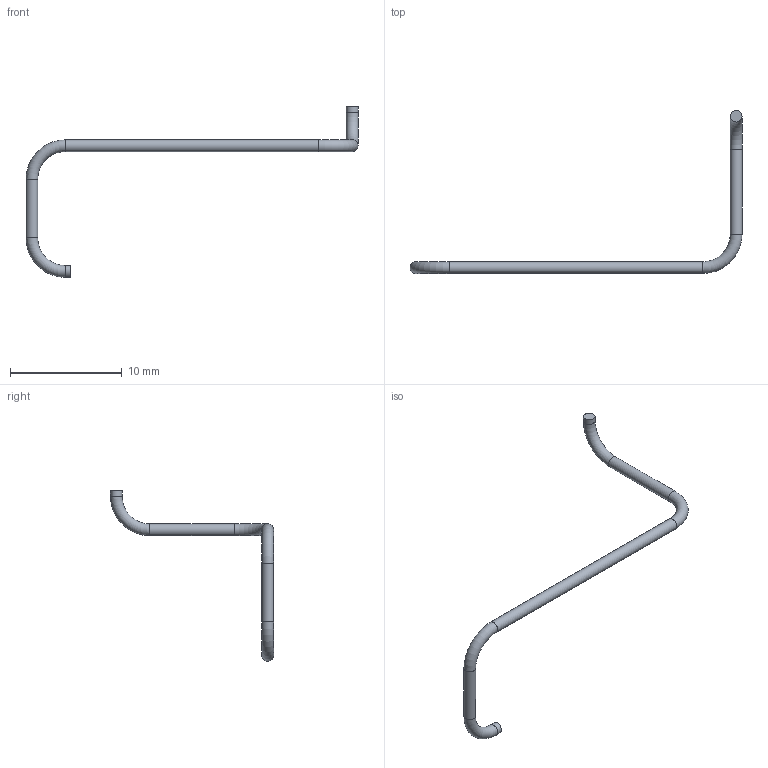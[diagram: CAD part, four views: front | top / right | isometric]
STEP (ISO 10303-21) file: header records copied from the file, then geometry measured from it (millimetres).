
FILE_DESCRIPTION(('Open CASCADE Model'),'2;1');
FILE_NAME('R36_J3_MIC_CK_PIGTAIL_4_OD1p05_R3','2026-09-15T14:09:12',( 'Author'),('Open CASCADE'),'Open CASCADE STEP processor 7.9', 'build123d','Unknown');
FILE_SCHEMA(('AUTOMOTIVE_DESIGN { 1 0 10303 214 1 1 1 1 }'));
Length unit declared in the file: millimetre
Products named in the file (1): R36_J3_MIC_CK_PIGTAIL_4_OD1p05_R3
Bounding box: 29.74 x 14.61 x 15.29 mm (x, y, z)
Volume: 47.9 mm3; surface area: 184.4 mm2
Topology: 1 solids, 1 shells, 11 faces, 19 edges, 10 vertices
Faces by surface type: cylinder 5, torus 4, plane 2
Full cylindrical faces by diameter (mm): 1.05 x5
Entity records: 503 total; most frequent: CARTESIAN_POINT 96, DIRECTION 78, ORIENTED_EDGE 38, PCURVE 38, DEFINITIONAL_REPRESENTATION 38, AXIS2_PLACEMENT_3D 26, LINE 24, VECTOR 24
